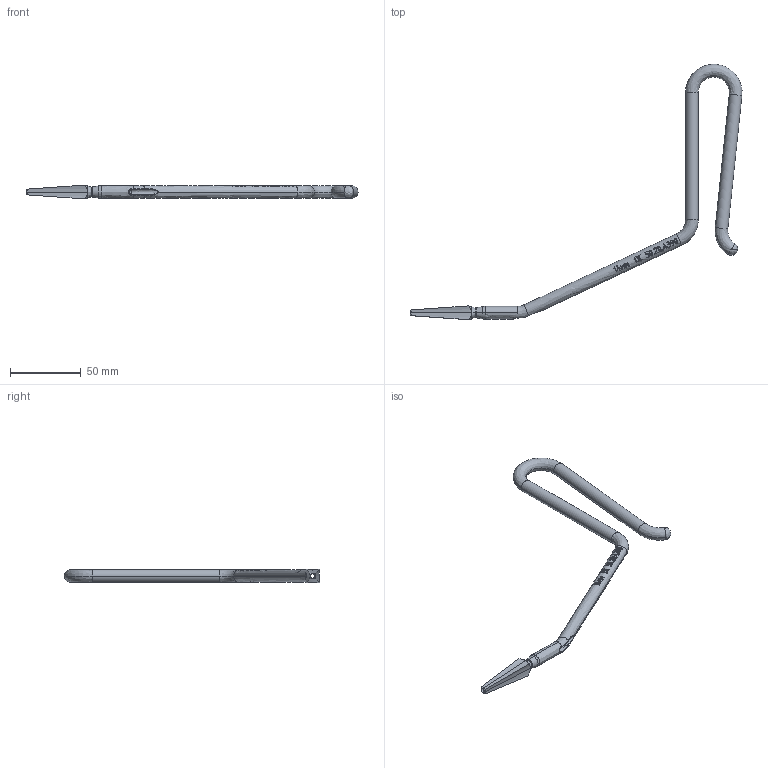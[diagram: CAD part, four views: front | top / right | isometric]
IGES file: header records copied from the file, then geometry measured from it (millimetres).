
Start section: SolidWorks IGES file using analytic representation for surfaces
Global section: file name: C:\Users\e.bondaruk\Desktop\縺 嚦闉鍙酀50.20.4390.IGS; native system: SolidWorks 2022; preprocessor: SolidWorks 2022; author: e.bondaruk; date: 230210.135700; units: millimetre
Bounding box: 234.92 x 180.74 x 9.78 mm (x, y, z)
Surface area: 14536 mm2 (no closed solid volume)
Topology: 0 solids, 0 shells, 329 faces, 5421 edges, 5415 vertices
Faces by surface type: bspline 275, revolution 54
